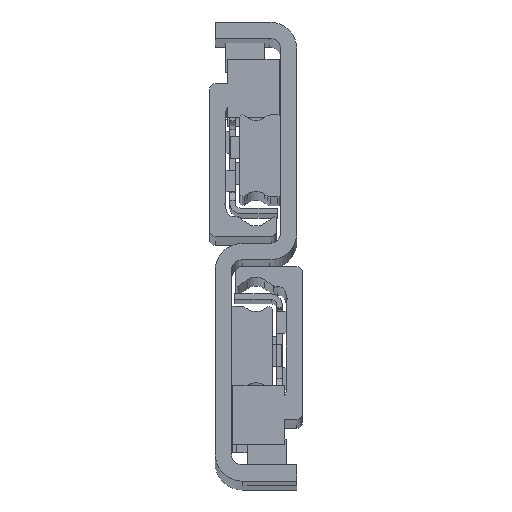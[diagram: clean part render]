
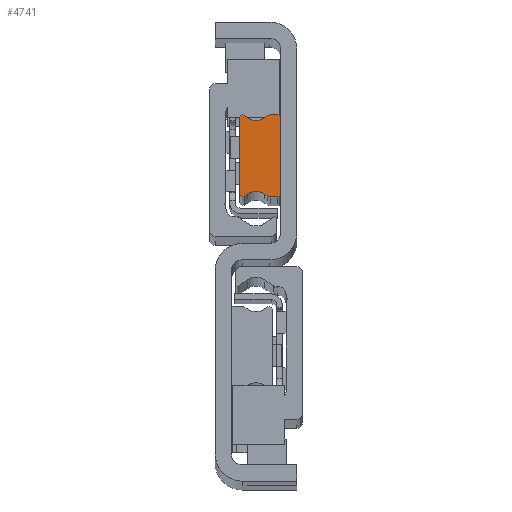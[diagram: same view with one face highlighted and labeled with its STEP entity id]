
A CAD part, top view. The second image highlights one B-rep face of the part: STEP entity #4741.
In plain terms, the highlighted planar face has unit normal (0, 0, 1) as drawn and (0, 0, -1) by its records, which use the part's own axes.
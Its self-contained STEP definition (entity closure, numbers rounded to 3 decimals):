
#65 = CARTESIAN_POINT ( 'NONE',  ( 7.5, 6.977, 0. ) ) ;
#78 = CARTESIAN_POINT ( 'NONE',  ( 6.977, 6.977, 0. ) ) ;
#164 = CARTESIAN_POINT ( 'NONE',  ( 0., 7., 0. ) ) ;
#235 = VERTEX_POINT ( 'NONE', #3602 ) ;
#275 = ORIENTED_EDGE ( 'NONE', *, *, #3959, .F. ) ;
#296 = EDGE_CURVE ( 'NONE', #8840, #6063, #9106, .T. ) ;
#327 = CARTESIAN_POINT ( 'NONE',  ( 0.5, -7., 0. ) ) ;
#363 = ORIENTED_EDGE ( 'NONE', *, *, #4447, .F. ) ;
#451 = CARTESIAN_POINT ( 'NONE',  ( 6.677, -7.405, 0. ) ) ;
#604 = DIRECTION ( 'NONE',  ( 0., 0., 1. ) ) ;
#651 = LINE ( 'NONE', #11116, #2021 ) ;
#782 = DIRECTION ( 'NONE',  ( 0., 0., -1. ) ) ;
#998 = CIRCLE ( 'NONE', #10462, 0.523 ) ;
#1129 = EDGE_CURVE ( 'NONE', #10967, #4900, #4411, .T. ) ;
#1244 = DIRECTION ( 'NONE',  ( 1., 0., 0. ) ) ;
#1392 = EDGE_CURVE ( 'NONE', #235, #8840, #11822, .T. ) ;
#1566 = ORIENTED_EDGE ( 'NONE', *, *, #7952, .F. ) ;
#1591 = CARTESIAN_POINT ( 'NONE',  ( 7.5, -6.977, 0. ) ) ;
#1792 = VECTOR ( 'NONE', #12701, 1000. ) ;
#1879 = VERTEX_POINT ( 'NONE', #1591 ) ;
#2021 = VECTOR ( 'NONE', #10013, 1000. ) ;
#2109 = AXIS2_PLACEMENT_3D ( 'NONE', #4164, #782, #6337 ) ;
#2170 = DIRECTION ( 'NONE',  ( 0., 1., 0. ) ) ;
#2307 = LINE ( 'NONE', #3895, #5747 ) ;
#2428 = ORIENTED_EDGE ( 'NONE', *, *, #2602, .F. ) ;
#2476 = DIRECTION ( 'NONE',  ( 0., 0., 1. ) ) ;
#2602 = EDGE_CURVE ( 'NONE', #4900, #11250, #4677, .T. ) ;
#2719 = DIRECTION ( 'NONE',  ( 0., 0., -1. ) ) ;
#3207 = CARTESIAN_POINT ( 'NONE',  ( 1.873, -7.5, 0. ) ) ;
#3286 = AXIS2_PLACEMENT_3D ( 'NONE', #4974, #604, #13768 ) ;
#3334 = ORIENTED_EDGE ( 'NONE', *, *, #6271, .F. ) ;
#3347 = VERTEX_POINT ( 'NONE', #5818 ) ;
#3602 = CARTESIAN_POINT ( 'NONE',  ( 0.5, 7.5, 0. ) ) ;
#3650 = CARTESIAN_POINT ( 'NONE',  ( 4.5, 9.272, 0. ) ) ;
#3750 = CIRCLE ( 'NONE', #9932, 0.5 ) ;
#3799 = EDGE_CURVE ( 'NONE', #3347, #6035, #6173, .T. ) ;
#3841 = CARTESIAN_POINT ( 'NONE',  ( 0.5, 7., 0. ) ) ;
#3858 = DIRECTION ( 'NONE',  ( -0.819, -0.574, 0. ) ) ;
#3895 = CARTESIAN_POINT ( 'NONE',  ( 2.446, 7.319, 0. ) ) ;
#3959 = EDGE_CURVE ( 'NONE', #6035, #5970, #12753, .T. ) ;
#4164 = CARTESIAN_POINT ( 'NONE',  ( 6.977, 6.977, 0. ) ) ;
#4411 = LINE ( 'NONE', #4523, #13772 ) ;
#4447 = EDGE_CURVE ( 'NONE', #6063, #10967, #3750, .T. ) ;
#4513 = DIRECTION ( 'NONE',  ( -1., 0., 0. ) ) ;
#4514 = CARTESIAN_POINT ( 'NONE',  ( 0.5, -7.5, 0. ) ) ;
#4523 = CARTESIAN_POINT ( 'NONE',  ( 1.873, -7.5, 0. ) ) ;
#4629 = EDGE_CURVE ( 'NONE', #5970, #1879, #10640, .T. ) ;
#4652 = AXIS2_PLACEMENT_3D ( 'NONE', #10277, #2719, #12853 ) ;
#4670 = ORIENTED_EDGE ( 'NONE', *, *, #296, .F. ) ;
#4677 = CIRCLE ( 'NONE', #5187, 1. ) ;
#4741 = ADVANCED_FACE ( 'NONE', ( #12047 ), #12979, .T. ) ;
#4817 = VERTEX_POINT ( 'NONE', #8608 ) ;
#4883 = CARTESIAN_POINT ( 'NONE',  ( 2.446, -7.319, 0. ) ) ;
#4894 = VERTEX_POINT ( 'NONE', #8707 ) ;
#4900 = VERTEX_POINT ( 'NONE', #3207 ) ;
#4907 = CARTESIAN_POINT ( 'NONE',  ( 6.093, 6.997, 0. ) ) ;
#4974 = CARTESIAN_POINT ( 'NONE',  ( 6.977, -6.977, 0. ) ) ;
#4980 = DIRECTION ( 'NONE',  ( -1., 0., 0. ) ) ;
#5187 = AXIS2_PLACEMENT_3D ( 'NONE', #9026, #2476, #7806 ) ;
#5347 = CIRCLE ( 'NONE', #5447, 1. ) ;
#5447 = AXIS2_PLACEMENT_3D ( 'NONE', #13053, #10834, #6414 ) ;
#5591 = ORIENTED_EDGE ( 'NONE', *, *, #1129, .F. ) ;
#5747 = VECTOR ( 'NONE', #13780, 1000. ) ;
#5767 = CARTESIAN_POINT ( 'NONE',  ( 2.907, 6.997, 0. ) ) ;
#5769 = EDGE_LOOP ( 'NONE', ( #9884, #13041, #11214, #275, #6770, #13107, #2428, #5591, #363, #4670, #13822, #13593, #8941, #1566, #3334, #6994 ) ) ;
#5818 = CARTESIAN_POINT ( 'NONE',  ( 2.907, -6.997, 0. ) ) ;
#5878 = VERTEX_POINT ( 'NONE', #10349 ) ;
#5912 = CARTESIAN_POINT ( 'NONE',  ( 1.873, 7.5, 0. ) ) ;
#5970 = VERTEX_POINT ( 'NONE', #7224 ) ;
#6035 = VERTEX_POINT ( 'NONE', #9723 ) ;
#6063 = VERTEX_POINT ( 'NONE', #13094 ) ;
#6145 = EDGE_CURVE ( 'NONE', #11250, #3347, #651, .T. ) ;
#6173 = CIRCLE ( 'NONE', #4652, 2.778 ) ;
#6191 = DIRECTION ( 'NONE',  ( 0., 0., 1. ) ) ;
#6271 = EDGE_CURVE ( 'NONE', #4894, #11048, #13424, .T. ) ;
#6326 = VERTEX_POINT ( 'NONE', #5912 ) ;
#6337 = DIRECTION ( 'NONE',  ( -1., 0., 0. ) ) ;
#6414 = DIRECTION ( 'NONE',  ( -1., 0., 0. ) ) ;
#6770 = ORIENTED_EDGE ( 'NONE', *, *, #3799, .F. ) ;
#6987 = EDGE_CURVE ( 'NONE', #1879, #5878, #11989, .T. ) ;
#6994 = ORIENTED_EDGE ( 'NONE', *, *, #9994, .F. ) ;
#7044 = VECTOR ( 'NONE', #8123, 1000. ) ;
#7224 = CARTESIAN_POINT ( 'NONE',  ( 6.677, -7.405, 0. ) ) ;
#7295 = LINE ( 'NONE', #10480, #1792 ) ;
#7607 = LINE ( 'NONE', #4907, #8127 ) ;
#7806 = DIRECTION ( 'NONE',  ( -1., 0., 0. ) ) ;
#7914 = EDGE_CURVE ( 'NONE', #6326, #235, #7295, .T. ) ;
#7952 = EDGE_CURVE ( 'NONE', #11048, #13108, #2307, .T. ) ;
#8123 = DIRECTION ( 'NONE',  ( 0.819, -0.574, 0. ) ) ;
#8127 = VECTOR ( 'NONE', #3858, 1000. ) ;
#8185 = VECTOR ( 'NONE', #2170, 1000. ) ;
#8608 = CARTESIAN_POINT ( 'NONE',  ( 6.677, 7.405, 0. ) ) ;
#8707 = CARTESIAN_POINT ( 'NONE',  ( 6.093, 6.997, 0. ) ) ;
#8840 = VERTEX_POINT ( 'NONE', #164 ) ;
#8941 = ORIENTED_EDGE ( 'NONE', *, *, #10206, .F. ) ;
#9009 = DIRECTION ( 'NONE',  ( 1., 0., 0. ) ) ;
#9026 = CARTESIAN_POINT ( 'NONE',  ( 1.873, -6.5, 0. ) ) ;
#9101 = DIRECTION ( 'NONE',  ( 0., -1., 0. ) ) ;
#9106 = LINE ( 'NONE', #11447, #12919 ) ;
#9723 = CARTESIAN_POINT ( 'NONE',  ( 6.093, -6.997, 0. ) ) ;
#9884 = ORIENTED_EDGE ( 'NONE', *, *, #13311, .F. ) ;
#9932 = AXIS2_PLACEMENT_3D ( 'NONE', #327, #13574, #13669 ) ;
#9994 = EDGE_CURVE ( 'NONE', #4817, #4894, #7607, .T. ) ;
#10013 = DIRECTION ( 'NONE',  ( 0.819, 0.574, 0. ) ) ;
#10206 = EDGE_CURVE ( 'NONE', #13108, #6326, #5347, .T. ) ;
#10225 = AXIS2_PLACEMENT_3D ( 'NONE', #3650, #10247, #9009 ) ;
#10247 = DIRECTION ( 'NONE',  ( 0., 0., -1. ) ) ;
#10277 = CARTESIAN_POINT ( 'NONE',  ( 4.5, -9.272, 0. ) ) ;
#10349 = CARTESIAN_POINT ( 'NONE',  ( 7.5, 6.977, 0. ) ) ;
#10447 = AXIS2_PLACEMENT_3D ( 'NONE', #3841, #6191, #4980 ) ;
#10462 = AXIS2_PLACEMENT_3D ( 'NONE', #78, #13423, #4513 ) ;
#10480 = CARTESIAN_POINT ( 'NONE',  ( 0.5, 7.5, 0. ) ) ;
#10640 = CIRCLE ( 'NONE', #3286, 0.523 ) ;
#10834 = DIRECTION ( 'NONE',  ( 0., 0., 1. ) ) ;
#10967 = VERTEX_POINT ( 'NONE', #4514 ) ;
#11048 = VERTEX_POINT ( 'NONE', #5767 ) ;
#11116 = CARTESIAN_POINT ( 'NONE',  ( 2.907, -6.997, 0. ) ) ;
#11214 = ORIENTED_EDGE ( 'NONE', *, *, #4629, .F. ) ;
#11250 = VERTEX_POINT ( 'NONE', #4883 ) ;
#11447 = CARTESIAN_POINT ( 'NONE',  ( 0., -7., 0. ) ) ;
#11653 = CARTESIAN_POINT ( 'NONE',  ( 2.446, 7.319, 0. ) ) ;
#11822 = CIRCLE ( 'NONE', #10447, 0.5 ) ;
#11989 = LINE ( 'NONE', #65, #8185 ) ;
#12047 = FACE_OUTER_BOUND ( 'NONE', #5769, .T. ) ;
#12701 = DIRECTION ( 'NONE',  ( -1., 0., 0. ) ) ;
#12753 = LINE ( 'NONE', #451, #7044 ) ;
#12853 = DIRECTION ( 'NONE',  ( 1., 0., 0. ) ) ;
#12919 = VECTOR ( 'NONE', #9101, 1000. ) ;
#12979 = PLANE ( 'NONE',  #2109 ) ;
#13041 = ORIENTED_EDGE ( 'NONE', *, *, #6987, .F. ) ;
#13053 = CARTESIAN_POINT ( 'NONE',  ( 1.873, 6.5, 0. ) ) ;
#13094 = CARTESIAN_POINT ( 'NONE',  ( 0., -7., 0. ) ) ;
#13107 = ORIENTED_EDGE ( 'NONE', *, *, #6145, .F. ) ;
#13108 = VERTEX_POINT ( 'NONE', #11653 ) ;
#13311 = EDGE_CURVE ( 'NONE', #5878, #4817, #998, .T. ) ;
#13423 = DIRECTION ( 'NONE',  ( 0., 0., 1. ) ) ;
#13424 = CIRCLE ( 'NONE', #10225, 2.778 ) ;
#13574 = DIRECTION ( 'NONE',  ( 0., 0., 1. ) ) ;
#13593 = ORIENTED_EDGE ( 'NONE', *, *, #7914, .F. ) ;
#13669 = DIRECTION ( 'NONE',  ( -1., 0., 0. ) ) ;
#13768 = DIRECTION ( 'NONE',  ( -1., 0., 0. ) ) ;
#13772 = VECTOR ( 'NONE', #1244, 1000. ) ;
#13780 = DIRECTION ( 'NONE',  ( -0.819, 0.574, 0. ) ) ;
#13822 = ORIENTED_EDGE ( 'NONE', *, *, #1392, .F. ) ;
